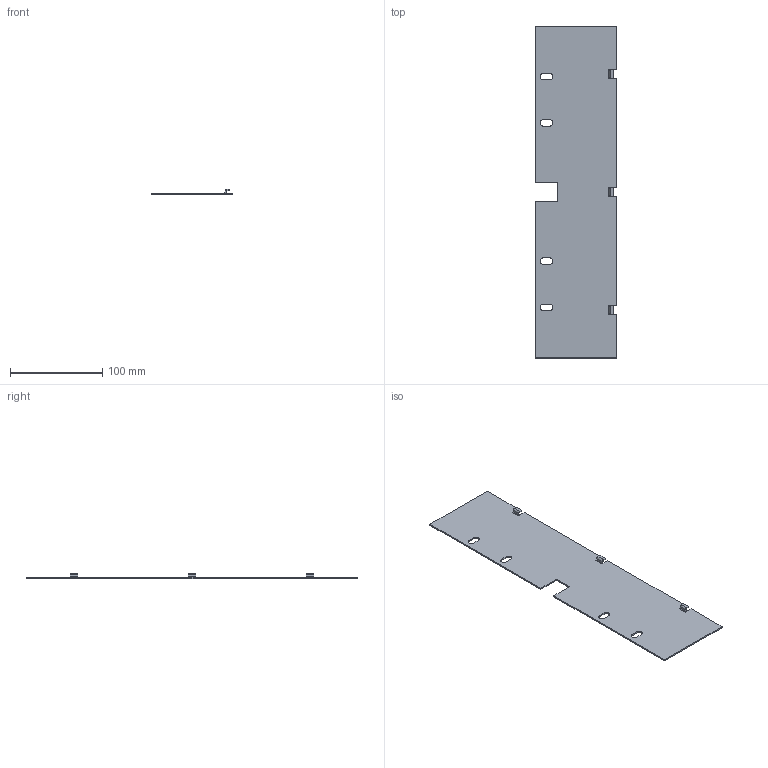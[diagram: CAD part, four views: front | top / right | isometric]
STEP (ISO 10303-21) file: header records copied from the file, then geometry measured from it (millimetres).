
FILE_DESCRIPTION (( 'STEP AP203' ), '1' );
FILE_NAME ('EUSV-010040.STEP', '2015-04-22T09:38:33', ( 'Admin' ), ( '' ), 'SwSTEP 2.0', 'SolidWorks 2014', '' );
FILE_SCHEMA (( 'CONFIG_CONTROL_DESIGN' ));
Length unit declared in the file: millimetre
Products named in the file (1): EUSV-010040
Bounding box: 88 x 360 x 5.95 mm (x, y, z)
Volume: 46213.5 mm3; surface area: 63408.2 mm2
Topology: 1 solids, 1 shells, 81 faces, 225 edges, 146 vertices
Faces by surface type: plane 57, cylinder 24
Entity records: 2664 total; most frequent: CARTESIAN_POINT 453, ORIENTED_EDGE 450, DIRECTION 437, EDGE_CURVE 225, VECTOR 177, LINE 177, VERTEX_POINT 146, AXIS2_PLACEMENT_3D 130
